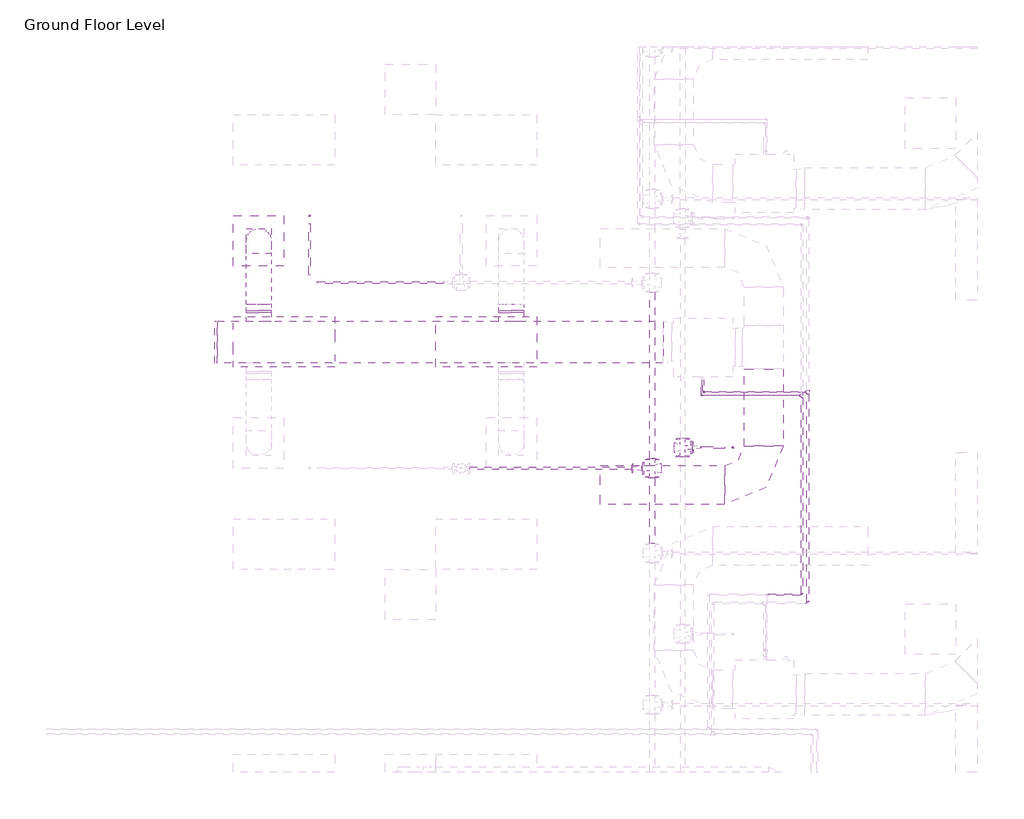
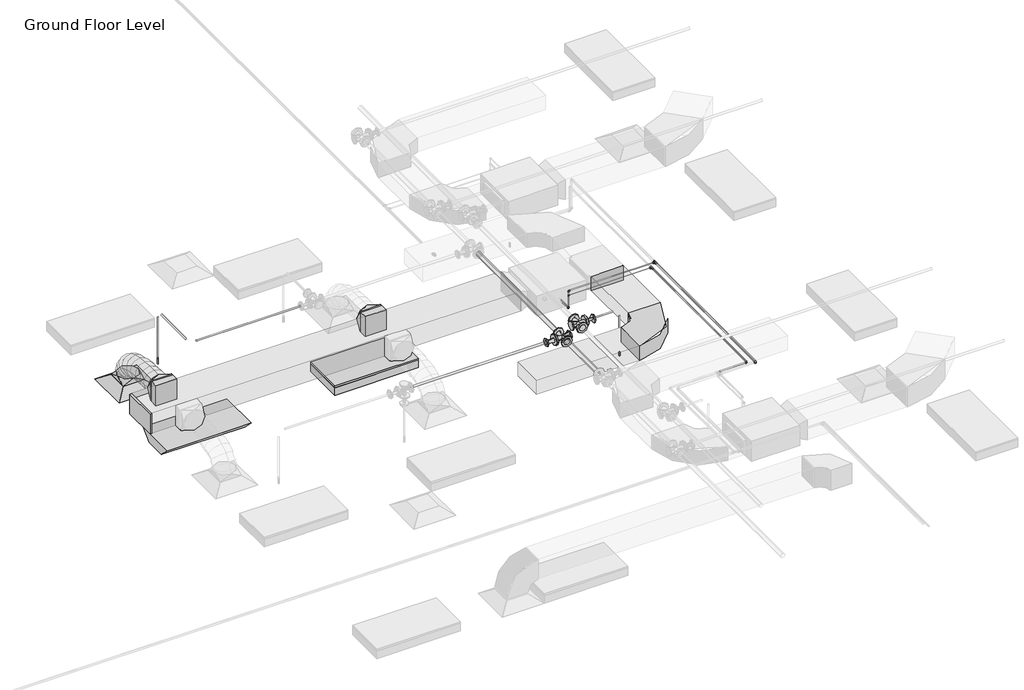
# One storey, part 60 of 72: 17 pipe segments, 14 pipe fittings, 8 duct fittings, 6 duct segments, 2 fire suppression terminals, 2 light fixtures, 1 air terminal.
"""IFC4 building model written with IfcOpenShell, lengths in millimetres."""

from ifc_helpers import new_model, si_unit, point, frame, frame_2d, origin, place, context, project, spatial, polyline, circle_curve, ellipse_curve, trimmed, segment, composite_curve, outline, extrude, transform, mapped, element, save
from ifc_brep_helpers import plane_surface, cylinder_surface, advanced_brep
from components import m_return_diffuser_600_x_600_face_300_x_300_connection_ff221211, m_rectangular_elbow_radius_1_w_0fa52825, m_rectangular_endcap_standard_72d4d00d, m_rectangular_takeoff_standard_2be5eba1, m_rectangular_transition_angle_45_degree_27e6000f, m_rectangular_to_round_transition_angle_45_degree_641efff0, m_sprinkler_dry_pendent_hosted_15_mm_dry_pendent_9bda8e11, m_sprinkler_pendent_15_mm_pendent_06fcbd8e, m_emergency_recessed_lighting_fixture_600x1200_277_5b10b25d, m_troffer_light_parabolic_rectangular1_0600x1200mm_4_lamp_86473d4a, m_elbow_generic_standard_a088f956, m_elbow_generic_standard_2a704253, m_elbow_generic_standard_73005802, m_elbow_generic_standard_bb5ffebe, m_reducer_flanged_cs_class_150_standard_83138b42, m_reducer_flanged_cs_class_150_standard_5e9b2cee, m_tee_generic_standard_cdc1cff5, m_tee_generic_standard_bbfc025c, m_tee_round_base_flanged_cs_class_150_standard_dd767e04, m_tee_round_base_flanged_cs_class_150_standard_ab36f383, m_transition_generic_standard_e9aec4dd, m_transition_generic_standard_c2658a33

model = new_model("IFC4")

# Units and contexts
model_context = context("Model", 3, world=origin())
ifc_project = project(units=[si_unit("LENGTHUNIT", "METRE", prefix="MILLI")], contexts=[model_context])

# Site, building, storey
site = spatial("IfcSite", under=ifc_project)
building = spatial("IfcBuilding", under=site)
storey = spatial("IfcBuildingStorey", under=building, Name="Ground Floor Level", Elevation=900.0)

# Air terminal
placement = place(None, origin())
m_return_diffuser_600_x_600_face_300_x_300_connection_shape = m_return_diffuser_600_x_600_face_300_x_300_connection_ff221211(model_context)
element("IfcAirTerminal", 1, ObjectType="M_Supply Diffuser : 600 x 600 Face 300 x 300 Connection", at=placement, inside=storey, context=model_context, shape_type="MappedRepresentation", body=[
    mapped(m_return_diffuser_600_x_600_face_300_x_300_connection_shape, transform((962.7672395, 5335.2153534, 3650.0), x_axis=(1.0, 0.0, 0.0), y_axis=(0.0, 1.0, 0.0), z_axis=(0.0, 0.0, 1.0))),
])

# Duct fittings
m_rectangular_elbow_radius_1_w_shape = m_rectangular_elbow_radius_1_w_0fa52825(model_context)
element("IfcDuctFitting", 2, ObjectType="M_Rectangular Elbow - Radius : 1 W", at=placement, inside=storey, context=model_context, shape_type="MappedRepresentation", body=[
    mapped(m_rectangular_elbow_radius_1_w_shape, transform((6958.8139492, 2435.5824167, 4075.2875), x_axis=(1.0, 0.0, 0.0), y_axis=(0.0, 1.0, 0.0), z_axis=(0.0, 0.0, 1.0))),
])
m_rectangular_endcap_standard_shape = m_rectangular_endcap_standard_72d4d00d(model_context)
element("IfcDuctFitting", 3, ObjectType="M_Rectangular Endcap : Standard", at=placement, inside=storey, context=model_context, shape_type="MappedRepresentation", body=[
    mapped(m_rectangular_endcap_standard_shape, transform((468.0139492, 4135.0199167, 4099.9875), x_axis=(-0.9999999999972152, 0.0, -2.3600398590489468e-06), y_axis=(0.0, -1.0000000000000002, 0.0), z_axis=(-2.3600398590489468e-06, 0.0, 0.9999999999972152))),
])
m_rectangular_takeoff_standard_shape = m_rectangular_takeoff_standard_2be5eba1(model_context)
element("IfcDuctFitting", 4, ObjectType="M_Rectangular Takeoff : Standard", at=placement, inside=storey, context=model_context, shape_type="MappedRepresentation", body=[
    mapped(m_rectangular_takeoff_standard_shape, transform((3962.7672395, 4385.0199167, 4099.9957478), x_axis=(0.0, 1.0, 0.0), y_axis=(1.0, 0.0, 0.0), z_axis=(0.0, 0.0, -1.0))),
])
element("IfcDuctFitting", 5, ObjectType="M_Rectangular Takeoff : Standard", at=placement, inside=storey, context=model_context, shape_type="MappedRepresentation", body=[
    mapped(m_rectangular_takeoff_standard_shape, transform((962.7672395, 4385.0199167, 4099.9886676), x_axis=(0.0, 1.0, 0.0), y_axis=(1.0, 0.0, 0.0), z_axis=(0.0, 0.0, -1.0))),
])
m_rectangular_transition_angle_45_degree_shape = m_rectangular_transition_angle_45_degree_27e6000f(model_context)
element("IfcDuctFitting", 6, ObjectType="M_Rectangular Transition - Angle : 45 Degree", at=placement, inside=storey, context=model_context, shape_type="MappedRepresentation", body=[
    mapped(m_rectangular_transition_angle_45_degree_shape, transform((6958.8139492, 3815.5824167, 4075.2875), x_axis=(0.0, -1.0, 0.0), y_axis=(1.0, 0.0, 0.0), z_axis=(0.0, 0.0, 1.0))),
])
m_rectangular_to_round_transition_angle_45_degree_shape = m_rectangular_to_round_transition_angle_45_degree_641efff0(model_context)
element("IfcDuctFitting", 7, ObjectType="M_Rectangular to Round Transition - Angle : 45 Degree", at=placement, inside=storey, context=model_context, shape_type="MappedRepresentation", body=[
    mapped(m_rectangular_to_round_transition_angle_45_degree_shape, transform((962.7672395, 5335.2153534, 3751.6), x_axis=(0.0, 0.0, 1.0), y_axis=(-1.0, 0.0, 0.0), z_axis=(0.0, -1.0, 0.0))),
])
element("IfcDuctFitting", 8, ObjectType="M_Rectangular to Round Transition - Angle : 45 Degree", at=placement, inside=storey, context=model_context, shape_type="MappedRepresentation", body=[
    mapped(m_rectangular_to_round_transition_angle_45_degree_shape, transform((962.7672395, 4507.8680897, 4099.9886676), x_axis=(0.0, 1.0, 0.0), y_axis=(-1.0, 0.0, 0.0), z_axis=(0.0, 0.0, 1.0))),
])
element("IfcDuctFitting", 9, ObjectType="M_Rectangular to Round Transition - Angle : 45 Degree", at=placement, inside=storey, context=model_context, shape_type="MappedRepresentation", body=[
    mapped(m_rectangular_to_round_transition_angle_45_degree_shape, transform((3962.7672395, 4507.8751699, 4099.9957478), x_axis=(0.0, 1.0, 0.0), y_axis=(-1.0, 0.0, 0.0), z_axis=(0.0, 0.0, 1.0))),
])

# Duct segments
element("IfcDuctSegment", 10, ObjectType="Flex - Round", at=placement, inside=storey, context=model_context, shape_type="AdvancedBrep", body=[
    advanced_brep(
    [(1112.7672395, 5335.2153534, 3826.6), (962.7672395, 5185.2153534, 3826.6), (812.7672395, 5335.2153534, 3826.6), (962.7672395, 5485.2153534, 3826.6), (1112.7672395, 5335.2153534, 3857.9381871), (962.7672395, 5185.2153534, 3832.2943835), (812.7672395, 5335.2153534, 3857.9381871), (962.7672395, 5485.2153534, 3883.5819907), (1112.7672395, 5318.1991066, 3906.2507795), (962.7672395, 5184.4618414, 3834.4337577), (812.7672395, 5318.1991066, 3906.2507795), (962.7672395, 5451.9363718, 3978.0678013), (1112.7672395, 5271.0143708, 3968.7107945), (962.7672395, 5166.8104112, 3857.7995469), (812.7672395, 5271.0143708, 3968.7107945), (962.7672395, 5375.2183303, 4079.622042), (1112.7672395, 5199.4571526, 4016.0681304), (962.7672395, 5130.5261535, 3881.8128585), (812.7672395, 5199.4571526, 4016.0681304), (962.7672395, 5268.3881516, 4150.3234022), (1112.7672395, 5109.3234587, 4050.4108726), (962.7672395, 5065.7660366, 3906.4877598), (812.7672395, 5109.3234587, 4050.4108726), (962.7672395, 5152.8808808, 4194.3339853), (1112.7672395, 5006.4092959, 4073.8271066), (962.7672395, 4979.8515391, 3926.0360311), (812.7672395, 5006.4092959, 4073.8271066), (962.7672395, 5032.9670528, 4221.618182), (1112.7672395, 4896.5106709, 4088.4049176), (962.7672395, 4881.3625214, 3939.1003829), (812.7672395, 4896.5106709, 4088.4049176), (962.7672395, 4911.6588205, 4237.7094524), (1112.7672395, 4785.4235904, 4096.2323912), (962.7672395, 4777.9204039, 3946.3891733), (812.7672395, 4785.4235904, 4096.2323912), (962.7672395, 4792.9267769, 4246.0756092), (1112.7672395, 4678.9440611, 4099.3976128), (962.7672395, 4676.2538265, 3949.4113245), (812.7672395, 4678.9440611, 4099.3976128), (962.7672395, 4681.6342958, 4249.383901), (1112.7672395, 4582.8680897, 4099.9886676), (962.7672395, 4583.7908652, 4249.9858292), (812.7672395, 4582.8680897, 4099.9886676), (962.7672395, 4581.9453142, 3949.991506)],
    [
        (0, 1, circle_curve(frame((962.7672395, 5335.2153534, 3826.6), z_axis=(0.0, 0.0, -1.0), x_axis=(1.0, 0.0, 0.0)), 150.0)),
        (1, 2, circle_curve(frame((962.7672395, 5335.2153534, 3826.6), z_axis=(0.0, 0.0, -1.0), x_axis=(1.0, 0.0, 0.0)), 150.0)),
        (2, 3, circle_curve(frame((962.7672395, 5335.2153534, 3826.6), z_axis=(0.0, 0.0, -1.0), x_axis=(1.0, 0.0, 0.0)), 150.0)),
        (3, 0, circle_curve(frame((962.7672395, 5335.2153534, 3826.6), z_axis=(0.0, 0.0, -1.0), x_axis=(1.0, 0.0, 0.0)), 150.0)),
        (0, 4),
        (4, 5, ellipse_curve(frame((962.7672395, 5335.2153534, 3857.9381871), z_axis=(0.0, 0.16851385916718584, -0.9856992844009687), x_axis=(0.0, -0.9856992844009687, -0.16851385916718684)), 152.176229, 150.0)),
        (5, 1),
        (5, 6, ellipse_curve(frame((962.7672395, 5335.2153534, 3857.9381871), z_axis=(0.0, 0.16851385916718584, -0.9856992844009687), x_axis=(0.0, -0.9856992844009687, -0.16851385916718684)), 152.176229, 150.0)),
        (6, 2),
        (6, 7, ellipse_curve(frame((962.7672395, 5335.2153534, 3857.9381871), z_axis=(0.0, 0.16851385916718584, -0.9856992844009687), x_axis=(0.0, -0.9856992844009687, -0.16851385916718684)), 152.176229, 150.0)),
        (7, 3),
        (7, 4, ellipse_curve(frame((962.7672395, 5335.2153534, 3857.9381871), z_axis=(0.0, 0.16851385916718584, -0.9856992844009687), x_axis=(0.0, -0.9856992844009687, -0.16851385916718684)), 152.176229, 150.0)),
        (4, 8),
        (8, 9, ellipse_curve(frame((962.7672395, 5318.1991066, 3906.2507795), z_axis=(0.0, 0.4731018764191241, -0.8810077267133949), x_axis=(0.0, -0.8810077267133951, -0.4731018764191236)), 151.8003318, 150.0)),
        (9, 5),
        (9, 10, ellipse_curve(frame((962.7672395, 5318.1991066, 3906.2507795), z_axis=(0.0, 0.4731018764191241, -0.8810077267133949), x_axis=(0.0, -0.8810077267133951, -0.4731018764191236)), 151.8003318, 150.0)),
        (10, 6),
        (10, 11, ellipse_curve(frame((962.7672395, 5318.1991066, 3906.2507795), z_axis=(0.0, 0.4731018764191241, -0.8810077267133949), x_axis=(0.0, -0.8810077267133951, -0.4731018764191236)), 151.8003318, 150.0)),
        (11, 7),
        (11, 8, ellipse_curve(frame((962.7672395, 5318.1991066, 3906.2507795), z_axis=(0.0, 0.4731018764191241, -0.8810077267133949), x_axis=(0.0, -0.8810077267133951, -0.4731018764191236)), 151.8003318, 150.0)),
        (8, 12),
        (12, 13, ellipse_curve(frame((962.7672395, 5271.0143708, 3968.7107945), z_axis=(0.0, 0.728800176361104, -0.6847264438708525), x_axis=(0.0, -0.6847264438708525, -0.7288001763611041)), 152.1833434, 150.0)),
        (13, 9),
        (13, 14, ellipse_curve(frame((962.7672395, 5271.0143708, 3968.7107945), z_axis=(0.0, 0.728800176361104, -0.6847264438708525), x_axis=(0.0, -0.6847264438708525, -0.7288001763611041)), 152.1833434, 150.0)),
        (14, 10),
        (14, 15, ellipse_curve(frame((962.7672395, 5271.0143708, 3968.7107945), z_axis=(0.0, 0.728800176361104, -0.6847264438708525), x_axis=(0.0, -0.6847264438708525, -0.7288001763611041)), 152.1833434, 150.0)),
        (15, 11),
        (15, 12, ellipse_curve(frame((962.7672395, 5271.0143708, 3968.7107945), z_axis=(0.0, 0.728800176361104, -0.6847264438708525), x_axis=(0.0, -0.6847264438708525, -0.7288001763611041)), 152.1833434, 150.0)),
        (12, 16),
        (16, 17, ellipse_curve(frame((962.7672395, 5199.4571526, 4016.0681304), z_axis=(0.0, 0.8895963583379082, -0.456747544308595), x_axis=(0.0, -0.4567475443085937, -0.8895963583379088)), 150.9170655, 150.0)),
        (17, 13),
        (17, 18, ellipse_curve(frame((962.7672395, 5199.4571526, 4016.0681304), z_axis=(0.0, 0.8895963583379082, -0.456747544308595), x_axis=(0.0, -0.4567475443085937, -0.8895963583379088)), 150.9170655, 150.0)),
        (18, 14),
        (18, 19, ellipse_curve(frame((962.7672395, 5199.4571526, 4016.0681304), z_axis=(0.0, 0.8895963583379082, -0.456747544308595), x_axis=(0.0, -0.4567475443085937, -0.8895963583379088)), 150.9170655, 150.0)),
        (19, 15),
        (19, 16, ellipse_curve(frame((962.7672395, 5199.4571526, 4016.0681304), z_axis=(0.0, 0.8895963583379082, -0.456747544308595), x_axis=(0.0, -0.4567475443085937, -0.8895963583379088)), 150.9170655, 150.0)),
        (16, 20),
        (20, 21, ellipse_curve(frame((962.7672395, 5109.3234587, 4050.4108726), z_axis=(0.0, 0.9571270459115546, -0.2896684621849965), x_axis=(0.0, -0.28966846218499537, -0.957127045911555)), 150.3699152, 150.0)),
        (21, 17),
        (21, 22, ellipse_curve(frame((962.7672395, 5109.3234587, 4050.4108726), z_axis=(0.0, 0.9571270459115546, -0.2896684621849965), x_axis=(0.0, -0.28966846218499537, -0.957127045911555)), 150.3699152, 150.0)),
        (22, 18),
        (22, 23, ellipse_curve(frame((962.7672395, 5109.3234587, 4050.4108726), z_axis=(0.0, 0.9571270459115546, -0.2896684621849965), x_axis=(0.0, -0.28966846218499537, -0.957127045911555)), 150.3699152, 150.0)),
        (23, 19),
        (23, 20, ellipse_curve(frame((962.7672395, 5109.3234587, 4050.4108726), z_axis=(0.0, 0.9571270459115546, -0.2896684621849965), x_axis=(0.0, -0.28966846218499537, -0.957127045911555)), 150.3699152, 150.0)),
        (20, 24),
        (24, 25, ellipse_curve(frame((962.7672395, 5006.4092959, 4073.8271066), z_axis=(0.0, 0.984235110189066, -0.17686505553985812), x_axis=(0.0, -0.17686505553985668, -0.9842351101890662)), 150.1583045, 150.0)),
        (25, 21),
        (25, 26, ellipse_curve(frame((962.7672395, 5006.4092959, 4073.8271066), z_axis=(0.0, 0.984235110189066, -0.17686505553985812), x_axis=(0.0, -0.17686505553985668, -0.9842351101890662)), 150.1583045, 150.0)),
        (26, 22),
        (26, 27, ellipse_curve(frame((962.7672395, 5006.4092959, 4073.8271066), z_axis=(0.0, 0.984235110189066, -0.17686505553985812), x_axis=(0.0, -0.17686505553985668, -0.9842351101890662)), 150.1583045, 150.0)),
        (27, 23),
        (27, 24, ellipse_curve(frame((962.7672395, 5006.4092959, 4073.8271066), z_axis=(0.0, 0.984235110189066, -0.17686505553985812), x_axis=(0.0, -0.17686505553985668, -0.9842351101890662)), 150.1583045, 150.0)),
        (24, 28),
        (28, 29, ellipse_curve(frame((962.7672395, 4896.5106709, 4088.4049176), z_axis=(0.0, 0.9948925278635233, -0.1009398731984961), x_axis=(0.0, -0.10093987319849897, -0.994892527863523)), 150.0710183, 150.0)),
        (29, 25),
        (29, 30, ellipse_curve(frame((962.7672395, 4896.5106709, 4088.4049176), z_axis=(0.0, 0.9948925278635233, -0.1009398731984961), x_axis=(0.0, -0.10093987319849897, -0.994892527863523)), 150.0710183, 150.0)),
        (30, 26),
        (30, 31, ellipse_curve(frame((962.7672395, 4896.5106709, 4088.4049176), z_axis=(0.0, 0.9948925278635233, -0.1009398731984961), x_axis=(0.0, -0.10093987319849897, -0.994892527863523)), 150.0710183, 150.0)),
        (31, 27),
        (31, 28, ellipse_curve(frame((962.7672395, 4896.5106709, 4088.4049176), z_axis=(0.0, 0.9948925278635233, -0.1009398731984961), x_axis=(0.0, -0.10093987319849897, -0.994892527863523)), 150.0710183, 150.0)),
        (28, 32),
        (32, 33, ellipse_curve(frame((962.7672395, 4785.4235904, 4096.2323912), z_axis=(0.0, 0.9987486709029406, -0.05001092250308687), x_axis=(0.0, -0.05001092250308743, -0.9987486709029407)), 150.0309561, 150.0)),
        (33, 29),
        (33, 34, ellipse_curve(frame((962.7672395, 4785.4235904, 4096.2323912), z_axis=(0.0, 0.9987486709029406, -0.05001092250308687), x_axis=(0.0, -0.05001092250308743, -0.9987486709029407)), 150.0309561, 150.0)),
        (34, 30),
        (34, 35, ellipse_curve(frame((962.7672395, 4785.4235904, 4096.2323912), z_axis=(0.0, 0.9987486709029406, -0.05001092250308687), x_axis=(0.0, -0.05001092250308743, -0.9987486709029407)), 150.0309561, 150.0)),
        (35, 31),
        (35, 32, ellipse_curve(frame((962.7672395, 4785.4235904, 4096.2323912), z_axis=(0.0, 0.9987486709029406, -0.05001092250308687), x_axis=(0.0, -0.05001092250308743, -0.9987486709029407)), 150.0309561, 150.0)),
        (32, 36),
        (36, 37, ellipse_curve(frame((962.7672395, 4678.9440611, 4099.3976128), z_axis=(0.0, 0.9998391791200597, -0.017933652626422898), x_axis=(0.0, -0.017933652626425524, -0.9998391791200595)), 150.0104131, 150.0)),
        (37, 33),
        (37, 38, ellipse_curve(frame((962.7672395, 4678.9440611, 4099.3976128), z_axis=(0.0, 0.9998391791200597, -0.017933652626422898), x_axis=(0.0, -0.017933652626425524, -0.9998391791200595)), 150.0104131, 150.0)),
        (38, 34),
        (38, 39, ellipse_curve(frame((962.7672395, 4678.9440611, 4099.3976128), z_axis=(0.0, 0.9998391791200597, -0.017933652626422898), x_axis=(0.0, -0.017933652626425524, -0.9998391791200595)), 150.0104131, 150.0)),
        (39, 35),
        (39, 36, ellipse_curve(frame((962.7672395, 4678.9440611, 4099.3976128), z_axis=(0.0, 0.9998391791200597, -0.017933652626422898), x_axis=(0.0, -0.017933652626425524, -0.9998391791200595)), 150.0104131, 150.0)),
        (40, 41, circle_curve(frame((962.7672395, 4582.8680897, 4099.9886676), z_axis=(0.0, -0.9999810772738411, 0.006151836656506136), x_axis=(1.0, 0.0, 0.0)), 150.0)),
        (41, 42, circle_curve(frame((962.7672395, 4582.8680897, 4099.9886676), z_axis=(0.0, -0.9999810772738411, 0.006151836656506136), x_axis=(1.0, 0.0, 0.0)), 150.0)),
        (42, 43, circle_curve(frame((962.7672395, 4582.8680897, 4099.9886676), z_axis=(0.0, -0.9999810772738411, 0.006151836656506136), x_axis=(1.0, 0.0, 0.0)), 150.0)),
        (43, 40, circle_curve(frame((962.7672395, 4582.8680897, 4099.9886676), z_axis=(0.0, -0.9999810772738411, 0.006151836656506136), x_axis=(1.0, 0.0, 0.0)), 150.0)),
        (36, 40),
        (43, 37),
        (42, 38),
        (41, 39),
    ],
    [
        plane_surface(frame((962.7672395, 5185.2153534, 3826.6), z_axis=(0.0, 0.0, -1.0), x_axis=(1.0, 0.0, 0.0))),
        cylinder_surface(frame((962.7672395, 5335.2153534, 3826.6), z_axis=(0.0, 0.0, -1.0), x_axis=(1.0, 0.0, 0.0)), 150.0),
        cylinder_surface(frame((962.7672395, 5335.2153534, 3857.9381871), z_axis=(0.0, 0.33220798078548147, -0.9432061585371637), x_axis=(1.0, 0.0, 0.0)), 150.0),
        cylinder_surface(frame((962.7672395, 5318.1991066, 3906.2507795), z_axis=(0.0, 0.6027739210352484, -0.7979120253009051), x_axis=(1.0, 0.0, 0.0)), 150.0),
        cylinder_surface(frame((962.7672395, 5271.0143708, 3968.7107945), z_axis=(0.0, 0.8339145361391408, -0.5518936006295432), x_axis=(1.0, 0.0, 0.0)), 150.0),
        cylinder_surface(frame((962.7672395, 5199.4571526, 4016.0681304), z_axis=(0.0, 0.9344667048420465, -0.35605052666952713), x_axis=(1.0, 0.0, 0.0)), 150.0),
        cylinder_surface(frame((962.7672395, 5109.3234587, 4050.4108726), z_axis=(0.0, 0.9750782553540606, -0.2218612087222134), x_axis=(1.0, 0.0, 0.0)), 150.0),
        cylinder_surface(frame((962.7672395, 5006.4092959, 4073.8271066), z_axis=(0.0, 0.9913167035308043, -0.13149598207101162), x_axis=(1.0, 0.0, 0.0)), 150.0),
        cylinder_surface(frame((962.7672395, 4896.5106709, 4088.4049176), z_axis=(0.0, 0.9975267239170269, -0.0702882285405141), x_axis=(1.0, 0.0, 0.0)), 150.0),
        cylinder_surface(frame((962.7672395, 4785.4235904, 4096.2323912), z_axis=(0.0, 0.9995584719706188, -0.029712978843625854), x_axis=(1.0, 0.0, 0.0)), 150.0),
        plane_surface(frame((962.7672395, 4581.9453142, 3949.991506), z_axis=(0.0, -0.9999810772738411, 0.006151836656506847), x_axis=(1.0, 0.0, 0.0))),
        cylinder_surface(frame((962.7672395, 4678.9440611, 4099.3976128), z_axis=(0.0, 0.9999810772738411, -0.006151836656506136), x_axis=(1.0, 0.0, 0.0)), 150.0),
    ],
    [
        (0, [[1, 2, 3, 4]]),
        (1, [[-1, 5, 6, 7]]),
        (1, [[-2, -7, 8, 9]]),
        (1, [[-3, -9, 10, 11]]),
        (1, [[-4, -11, 12, -5]]),
        (2, [[-6, 13, 14, 15]]),
        (2, [[-8, -15, 16, 17]]),
        (2, [[-10, -17, 18, 19]]),
        (2, [[-12, -19, 20, -13]]),
        (3, [[-14, 21, 22, 23]]),
        (3, [[-16, -23, 24, 25]]),
        (3, [[-18, -25, 26, 27]]),
        (3, [[-20, -27, 28, -21]]),
        (4, [[-22, 29, 30, 31]]),
        (4, [[-24, -31, 32, 33]]),
        (4, [[-26, -33, 34, 35]]),
        (4, [[-28, -35, 36, -29]]),
        (5, [[-30, 37, 38, 39]]),
        (5, [[-32, -39, 40, 41]]),
        (5, [[-34, -41, 42, 43]]),
        (5, [[-36, -43, 44, -37]]),
        (6, [[-38, 45, 46, 47]]),
        (6, [[-40, -47, 48, 49]]),
        (6, [[-42, -49, 50, 51]]),
        (6, [[-44, -51, 52, -45]]),
        (7, [[-46, 53, 54, 55]]),
        (7, [[-48, -55, 56, 57]]),
        (7, [[-50, -57, 58, 59]]),
        (7, [[-52, -59, 60, -53]]),
        (8, [[-54, 61, 62, 63]]),
        (8, [[-56, -63, 64, 65]]),
        (8, [[-58, -65, 66, 67]]),
        (8, [[-60, -67, 68, -61]]),
        (9, [[-62, 69, 70, 71]]),
        (9, [[-64, -71, 72, 73]]),
        (9, [[-66, -73, 74, 75]]),
        (9, [[-68, -75, 76, -69]]),
        (10, [[77, 78, 79, 80]]),
        (11, [[-70, 81, -80, 82]]),
        (11, [[-72, -82, -79, 83]]),
        (11, [[-74, -83, -78, 84]]),
        (11, [[-76, -84, -77, -81]]),
    ],
),
])
element("IfcDuctSegment", 11, ObjectType="Radius Elbows / Taps", at=placement, inside=storey, context=model_context, shape_type="SweptSolid", body=[
    extrude(outline(polyline([(0.0, -500.0), (0.0, 0.0), (5296.5207711, 0.0), (5296.5207711, -500.0), (0.0, -500.0)])), frame((5764.5350744, 3885.0199167, 3950.0), z_axis=(-2.360039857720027e-06, 0.0, 0.9999999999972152), x_axis=(-0.9999999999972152, 0.0, -2.360039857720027e-06)), (0.0, 0.0, 1.0), 300.0),
])
element("IfcDuctSegment", 12, ObjectType="Radius Elbows / Taps", at=placement, inside=storey, context=model_context, shape_type="SweptSolid", body=[
    extrude(outline(polyline([(6727.8139492, 3815.2202847), (7189.8139492, 3815.2202847), (7189.8139492, 2897.5824167), (6727.8139492, 2897.5824167), (6727.8139492, 3815.2202847)])), frame((0.0, 0.0, 3968.2875), z_axis=(0.0, 0.0, 1.0), x_axis=(1.0, 0.0, 0.0)), (0.0, 0.0, 1.0), 214.0),
])
element("IfcDuctSegment", 13, ObjectType="Radius Elbows / Taps", at=placement, inside=storey, context=model_context, shape_type="SweptSolid", body=[
    extrude(outline(polyline([(6496.8139492, 2666.5824167), (6496.8139492, 2204.5824167), (5018.8139492, 2204.5824167), (5018.8139492, 2666.5824167), (6496.8139492, 2666.5824167)])), frame((0.0, 0.0, 3968.2875), z_axis=(0.0, 0.0, 1.0), x_axis=(1.0, 0.0, 0.0)), (0.0, 0.0, 1.0), 214.0),
])
element("IfcDuctSegment", 14, ObjectType="Radius Elbows / Taps", at=placement, inside=storey, context=model_context, shape_type="SweptSolid", body=[
    extrude(outline(polyline([(4112.7672395, 4486.6199167), (3812.7672395, 4486.6199167), (3812.7672395, 4507.8751699), (4112.7672395, 4507.8751699), (4112.7672395, 4486.6199167)])), frame((0.0, 0.0, 3949.9957478), z_axis=(0.0, 0.0, 1.0), x_axis=(1.0, 0.0, 0.0)), (0.0, 0.0, 1.0), 300.0),
])
element("IfcDuctSegment", 15, ObjectType="Radius Elbows / Taps", at=placement, inside=storey, context=model_context, shape_type="SweptSolid", body=[
    extrude(outline(polyline([(1112.7672395, 4486.6199167), (812.7672395, 4486.6199167), (812.7672395, 4507.8680897), (1112.7672395, 4507.8680897), (1112.7672395, 4486.6199167)])), frame((0.0, 0.0, 3949.9886676), z_axis=(0.0, 0.0, 1.0), x_axis=(1.0, 0.0, 0.0)), (0.0, 0.0, 1.0), 300.0),
])

# Fire suppression terminals
m_sprinkler_dry_pendent_hosted_15_mm_dry_pendent_shape = m_sprinkler_dry_pendent_hosted_15_mm_dry_pendent_9bda8e11(model_context)
element("IfcFireSuppressionTerminal", 16, ObjectType="M_Sprinkler - Dry - Pendent - Hosted : 15 mm Dry Pendent", at=placement, inside=storey, context=model_context, shape_type="MappedRepresentation", body=[
    mapped(m_sprinkler_dry_pendent_hosted_15_mm_dry_pendent_shape, transform((1565.5763283, 5635.2153534, 3650.0), x_axis=(1.0, 0.0, 0.0), y_axis=(0.0, -1.0, 0.0), z_axis=(0.0, 0.0, -1.0))),
])
m_sprinkler_pendent_15_mm_pendent_shape = m_sprinkler_pendent_15_mm_pendent_06fcbd8e(model_context)
element("IfcFireSuppressionTerminal", 17, ObjectType="M_Sprinkler - Pendent : 15 mm Pendent", at=placement, inside=storey, context=model_context, shape_type="MappedRepresentation", body=[
    mapped(m_sprinkler_pendent_15_mm_pendent_shape, transform((6592.5481019, 2881.5134565, 3650.0), x_axis=(1.0, 0.0, 0.0), y_axis=(0.0, 1.0, 0.0), z_axis=(0.0, 0.0, 1.0))),
])

# Light fixtures
m_emergency_recessed_lighting_fixture_600x1200_277_shape = m_emergency_recessed_lighting_fixture_600x1200_277_5b10b25d(model_context)
element("IfcLightFixture", 18, ObjectType="M_Emergency Recessed Lighting Fixture : 600x1200 - 277", at=placement, inside=storey, context=model_context, shape_type="MappedRepresentation", body=[
    mapped(m_emergency_recessed_lighting_fixture_600x1200_277_shape, transform((662.7672395, 4435.2153534, 3650.0), x_axis=(1.0, 0.0, 0.0), y_axis=(0.0, 1.0, 0.0), z_axis=(0.0, 0.0, 1.0))),
])
m_troffer_light_parabolic_rectangular1_0600x1200mm_4_lamp_shape = m_troffer_light_parabolic_rectangular1_0600x1200mm_4_lamp_86473d4a(model_context)
element("IfcLightFixture", 19, ObjectType="M_Troffer Light - Parabolic Rectangular1 : 0600x1200mm(4 Lamp) - 277V 2", at=placement, inside=storey, context=model_context, shape_type="MappedRepresentation", body=[
    mapped(m_troffer_light_parabolic_rectangular1_0600x1200mm_4_lamp_shape, transform((3681.4707411, 4194.6812855, 3650.0), x_axis=(1.0, 0.0, 0.0), y_axis=(0.0, 1.0, 0.0), z_axis=(0.0, 0.0, 1.0))),
])

# Pipe fittings
m_elbow_generic_standard_shape = m_elbow_generic_standard_a088f956(model_context)
element("IfcPipeFitting", 20, ObjectType="M_Elbow - Generic : Standard", at=placement, inside=storey, context=model_context, shape_type="MappedRepresentation", body=[
    mapped(m_elbow_generic_standard_shape, transform((6243.4139492, 3539.4875998, 4034.0875), x_axis=(0.0, -1.0, 0.0), y_axis=(0.0, 0.0, 1.0), z_axis=(-1.0, 0.0, 0.0))),
])
element("IfcPipeFitting", 21, ObjectType="M_Elbow - Generic : Standard", at=placement, inside=storey, context=model_context, shape_type="MappedRepresentation", body=[
    mapped(m_elbow_generic_standard_shape, transform((6243.4139492, 3539.4875998, 4300.0), x_axis=(0.0, 0.0, 1.0), y_axis=(1.0, 0.0, 0.0), z_axis=(0.0, 1.0, 0.0))),
])
m_elbow_generic_standard_2_shape = m_elbow_generic_standard_2a704253(model_context)
element("IfcPipeFitting", 22, ObjectType="M_Elbow - Generic : Standard", at=placement, inside=storey, context=model_context, shape_type="MappedRepresentation", body=[
    mapped(m_elbow_generic_standard_2_shape, transform((6218.4139492, 3499.6030827, 4084.8875), x_axis=(0.0, -1.0, 0.0), y_axis=(0.0, 0.0, 1.0), z_axis=(-1.0, 0.0, 0.0))),
])
element("IfcPipeFitting", 23, ObjectType="M_Elbow - Generic : Standard", at=placement, inside=storey, context=model_context, shape_type="MappedRepresentation", body=[
    mapped(m_elbow_generic_standard_2_shape, transform((6218.4139492, 3499.6030827, 4265.0), x_axis=(0.0, 0.0, 1.0), y_axis=(1.0, 0.0, 0.0), z_axis=(0.0, 1.0, 0.0))),
])
m_elbow_generic_standard_3_shape = m_elbow_generic_standard_73005802(model_context)
element("IfcPipeFitting", 24, ObjectType="M_Elbow - Generic : Standard", at=placement, inside=storey, context=model_context, shape_type="MappedRepresentation", body=[
    mapped(m_elbow_generic_standard_3_shape, transform((7485.0672395, 1036.0098545, 4300.0), x_axis=(1.0, 0.0, 0.0), y_axis=(0.0, 1.0, 0.0), z_axis=(0.0, 0.0, 1.0))),
])
m_elbow_generic_standard_4_shape = m_elbow_generic_standard_bb5ffebe(model_context)
element("IfcPipeFitting", 25, ObjectType="M_Elbow - Generic : Standard", at=placement, inside=storey, context=model_context, shape_type="MappedRepresentation", body=[
    mapped(m_elbow_generic_standard_4_shape, transform((7412.2057053, 1134.0185138, 4265.0), x_axis=(1.0, 0.0, 0.0), y_axis=(0.0, 1.0, 0.0), z_axis=(0.0, 0.0, 1.0))),
])
m_reducer_flanged_cs_class_150_standard_shape = m_reducer_flanged_cs_class_150_standard_83138b42(model_context)
element("IfcPipeFitting", 26, ObjectType="M_Reducer - Flanged - CS - Class 150 : Standard", at=placement, inside=storey, context=model_context, shape_type="MappedRepresentation", body=[
    mapped(m_reducer_flanged_cs_class_150_standard_shape, transform((6109.3164057, 2881.5134565, 4291.2754753), x_axis=(1.0, 0.0, 0.0), y_axis=(0.0, 0.0, -1.0), z_axis=(0.0, 1.0, 0.0))),
])
m_reducer_flanged_cs_class_150_standard_2_shape = m_reducer_flanged_cs_class_150_standard_5e9b2cee(model_context)
element("IfcPipeFitting", 27, ObjectType="M_Reducer - Flanged - CS - Class 150 : Standard", at=placement, inside=storey, context=model_context, shape_type="MappedRepresentation", body=[
    mapped(m_reducer_flanged_cs_class_150_standard_2_shape, transform((5521.869498, 2635.2153534, 4360.0), x_axis=(-1.0, 0.0, 0.0), y_axis=(0.0, 0.0, -1.0), z_axis=(0.0, -1.0, 0.0))),
])
m_tee_generic_standard_shape = m_tee_generic_standard_cdc1cff5(model_context)
element("IfcPipeFitting", 28, ObjectType="M_Tee - Generic : Standard", at=placement, inside=storey, context=model_context, shape_type="MappedRepresentation", body=[
    mapped(m_tee_generic_standard_shape, transform((7412.2057053, 3499.6030827, 4265.0), x_axis=(0.0, 1.0, 0.0), y_axis=(1.0, 0.0, 0.0), z_axis=(0.0, 0.0, -1.0))),
])
m_tee_generic_standard_2_shape = m_tee_generic_standard_bbfc025c(model_context)
element("IfcPipeFitting", 29, ObjectType="M_Tee - Generic : Standard", at=placement, inside=storey, context=model_context, shape_type="MappedRepresentation", body=[
    mapped(m_tee_generic_standard_2_shape, transform((7485.0672395, 3539.4875998, 4300.0), x_axis=(0.0, 1.0, 0.0), y_axis=(1.0, 0.0, 0.0), z_axis=(0.0, 0.0, -1.0))),
])
m_tee_round_base_flanged_cs_class_150_standard_shape = m_tee_round_base_flanged_cs_class_150_standard_dd767e04(model_context)
element("IfcPipeFitting", 30, ObjectType="M_Tee Round Base - Flanged - CS - Class 150 : Standard", at=placement, inside=storey, context=model_context, shape_type="MappedRepresentation", body=[
    mapped(m_tee_round_base_flanged_cs_class_150_standard_shape, transform((5635.869498, 2635.2153534, 4360.0), x_axis=(0.0, 1.0, 0.0), y_axis=(1.0, 0.0, 0.0), z_axis=(0.0, 0.0, -1.0))),
])
m_tee_round_base_flanged_cs_class_150_standard_2_shape = m_tee_round_base_flanged_cs_class_150_standard_ab36f383(model_context)
element("IfcPipeFitting", 31, ObjectType="M_Tee Round Base - Flanged - CS - Class 150 : Standard", at=placement, inside=storey, context=model_context, shape_type="MappedRepresentation", body=[
    mapped(m_tee_round_base_flanged_cs_class_150_standard_2_shape, transform((5997.057812, 2881.5134565, 4291.0943441), x_axis=(0.0, 1.0, 0.0), y_axis=(-1.0, 0.0, 0.0), z_axis=(0.0, 0.0, 1.0))),
])
m_transition_generic_standard_shape = m_transition_generic_standard_e9aec4dd(model_context)
element("IfcPipeFitting", 32, ObjectType="M_Transition - Generic : Standard", at=placement, inside=storey, context=model_context, shape_type="MappedRepresentation", body=[
    mapped(m_transition_generic_standard_shape, transform((7459.6672395, 3539.4875998, 4300.0), x_axis=(-1.0, 0.0, 0.0), y_axis=(0.0, -1.0, 0.0), z_axis=(0.0, 0.0, 1.0))),
])
m_transition_generic_standard_2_shape = m_transition_generic_standard_c2658a33(model_context)
element("IfcPipeFitting", 33, ObjectType="M_Transition - Generic : Standard", at=placement, inside=storey, context=model_context, shape_type="MappedRepresentation", body=[
    mapped(m_transition_generic_standard_2_shape, transform((7389.9807053, 3499.6030827, 4265.0), x_axis=(-1.0, 0.0, 0.0), y_axis=(0.0, -1.0, 0.0), z_axis=(0.0, 0.0, 1.0))),
])

# Pipe segments
element("IfcPipeSegment", 34, ObjectType="Copper", at=placement, inside=storey, context=model_context, shape_type="SweptSolid", body=[
    extrude(outline(composite_curve([segment(trimmed(circle_curve(frame_2d((3499.6030827, 4265.0)), 3.35), [point((3496.2530827, 4265.0))], [point((3499.6030827, 4268.35))], False, "CARTESIAN"), True, "CONTINUOUS"), segment(trimmed(circle_curve(frame_2d((3499.6030827, 4265.0)), 3.35), [point((3499.6030827, 4268.35))], [point((3502.9530827, 4265.0))], False, "CARTESIAN"), True, "CONTINUOUS"), segment(trimmed(circle_curve(frame_2d((3499.6030827, 4265.0)), 3.35), [point((3502.9530827, 4265.0))], [point((3499.6030827, 4261.65))], False, "CARTESIAN"), True, "CONTINUOUS"), segment(trimmed(circle_curve(frame_2d((3499.6030827, 4265.0)), 3.35), [point((3499.6030827, 4261.65))], [point((3496.2530827, 4265.0))], False, "CARTESIAN"), True, "CONTINUOUS")], self_intersect=False)), frame((6229.5514492, 0.0, 0.0), z_axis=(1.0, 0.0, 0.0), x_axis=(0.0, 1.0, 0.0)), (0.0, 0.0, 1.0), 1155.666756),
])
element("IfcPipeSegment", 35, ObjectType="Copper", at=placement, inside=storey, context=model_context, shape_type="SweptSolid", body=[
    extrude(outline(composite_curve([segment(trimmed(circle_curve(frame_2d((3539.4875998, 4300.0)), 6.5), [point((3532.9875998, 4300.0))], [point((3539.4875998, 4306.5))], False, "CARTESIAN"), True, "CONTINUOUS"), segment(trimmed(circle_curve(frame_2d((3539.4875998, 4300.0)), 6.5), [point((3539.4875998, 4306.5))], [point((3545.9875998, 4300.0))], False, "CARTESIAN"), True, "CONTINUOUS"), segment(trimmed(circle_curve(frame_2d((3539.4875998, 4300.0)), 6.5), [point((3545.9875998, 4300.0))], [point((3539.4875998, 4293.5))], False, "CARTESIAN"), True, "CONTINUOUS"), segment(trimmed(circle_curve(frame_2d((3539.4875998, 4300.0)), 6.5), [point((3539.4875998, 4293.5))], [point((3532.9875998, 4300.0))], False, "CARTESIAN"), True, "CONTINUOUS")], self_intersect=False)), frame((6257.7014492, 0.0, 0.0), z_axis=(1.0, 0.0, 0.0), x_axis=(0.0, 1.0, 0.0)), (0.0, 0.0, 1.0), 1195.6157902),
])
element("IfcPipeSegment", 36, ObjectType="Copper", at=placement, inside=storey, context=model_context, shape_type="SweptSolid", body=[
    extrude(outline(composite_curve([segment(trimmed(circle_curve(frame_2d((4265.0, 7412.2057053)), 8.1), [point((4265.0, 7404.1057053))], [point((4256.9, 7412.2057053))], False, "CARTESIAN"), True, "CONTINUOUS"), segment(trimmed(circle_curve(frame_2d((4265.0, 7412.2057053)), 8.1), [point((4256.9, 7412.2057053))], [point((4265.0, 7420.3057053))], False, "CARTESIAN"), True, "CONTINUOUS"), segment(trimmed(circle_curve(frame_2d((4265.0, 7412.2057053)), 8.1), [point((4265.0, 7420.3057053))], [point((4273.1, 7412.2057053))], False, "CARTESIAN"), True, "CONTINUOUS"), segment(trimmed(circle_curve(frame_2d((4265.0, 7412.2057053)), 8.1), [point((4273.1, 7412.2057053))], [point((4265.0, 7404.1057053))], False, "CARTESIAN"), True, "CONTINUOUS")], self_intersect=False)), frame((0.0, 1149.8935138, 0.0), z_axis=(0.0, 1.0, 0.0), x_axis=(0.0, 0.0, 1.0)), (0.0, 0.0, 1.0), 2327.4845689),
])
element("IfcPipeSegment", 37, ObjectType="Copper", at=placement, inside=storey, context=model_context, shape_type="SweptSolid", body=[
    extrude(outline(composite_curve([segment(trimmed(circle_curve(frame_2d((4300.0, 7485.0672395)), 11.5), [point((4300.0, 7496.5672395))], [point((4311.5, 7485.0672395))], False, "CARTESIAN"), True, "CONTINUOUS"), segment(trimmed(circle_curve(frame_2d((4300.0, 7485.0672395)), 11.5), [point((4311.5, 7485.0672395))], [point((4300.0, 7473.5672395))], False, "CARTESIAN"), True, "CONTINUOUS"), segment(trimmed(circle_curve(frame_2d((4300.0, 7485.0672395)), 11.5), [point((4300.0, 7473.5672395))], [point((4288.5, 7485.0672395))], False, "CARTESIAN"), True, "CONTINUOUS"), segment(trimmed(circle_curve(frame_2d((4300.0, 7485.0672395)), 11.5), [point((4288.5, 7485.0672395))], [point((4300.0, 7496.5672395))], False, "CARTESIAN"), True, "CONTINUOUS")], self_intersect=False)), frame((0.0, 1055.0598545, 0.0), z_axis=(0.0, 1.0, 0.0), x_axis=(0.0, 0.0, 1.0)), (0.0, 0.0, 1.0), 2459.0277453),
])
element("IfcPipeSegment", 38, ObjectType="Copper", at=placement, inside=storey, context=model_context, shape_type="SweptSolid", body=[
    extrude(outline(composite_curve([segment(trimmed(circle_curve(frame_2d((4034.0875, 6243.4139492)), 6.5), [point((4034.0875, 6236.9139492))], [point((4027.5875, 6243.4139492))], False, "CARTESIAN"), True, "CONTINUOUS"), segment(trimmed(circle_curve(frame_2d((4034.0875, 6243.4139492)), 6.5), [point((4027.5875, 6243.4139492))], [point((4034.0875, 6249.9139492))], False, "CARTESIAN"), True, "CONTINUOUS"), segment(trimmed(circle_curve(frame_2d((4034.0875, 6243.4139492)), 6.5), [point((4034.0875, 6249.9139492))], [point((4040.5875, 6243.4139492))], False, "CARTESIAN"), True, "CONTINUOUS"), segment(trimmed(circle_curve(frame_2d((4034.0875, 6243.4139492)), 6.5), [point((4040.5875, 6243.4139492))], [point((4034.0875, 6236.9139492))], False, "CARTESIAN"), True, "CONTINUOUS")], self_intersect=False)), frame((0.0, 3553.7750998, 0.0), z_axis=(0.0, 1.0, 0.0), x_axis=(0.0, 0.0, 1.0)), (0.0, 0.0, 1.0), 129.6448169),
])
element("IfcPipeSegment", 39, ObjectType="Copper", at=placement, inside=storey, context=model_context, shape_type="SweptSolid", body=[
    extrude(outline(composite_curve([segment(trimmed(circle_curve(frame_2d((4084.8875, 6218.4139492)), 3.35), [point((4084.8875, 6215.0639492))], [point((4081.5375, 6218.4139492))], False, "CARTESIAN"), True, "CONTINUOUS"), segment(trimmed(circle_curve(frame_2d((4084.8875, 6218.4139492)), 3.35), [point((4081.5375, 6218.4139492))], [point((4084.8875, 6221.7639492))], False, "CARTESIAN"), True, "CONTINUOUS"), segment(trimmed(circle_curve(frame_2d((4084.8875, 6218.4139492)), 3.35), [point((4084.8875, 6221.7639492))], [point((4088.2375, 6218.4139492))], False, "CARTESIAN"), True, "CONTINUOUS"), segment(trimmed(circle_curve(frame_2d((4084.8875, 6218.4139492)), 3.35), [point((4088.2375, 6218.4139492))], [point((4084.8875, 6215.0639492))], False, "CARTESIAN"), True, "CONTINUOUS")], self_intersect=False)), frame((0.0, 3510.7405827, 0.0), z_axis=(0.0, 1.0, 0.0), x_axis=(0.0, 0.0, 1.0)), (0.0, 0.0, 1.0), 172.679334),
])
element("IfcPipeSegment", 40, ObjectType="Copper", at=placement, inside=storey, context=model_context, shape_type="SweptSolid", body=[
    extrude(outline(composite_curve([segment(trimmed(circle_curve(frame_2d((6218.4139492, 3499.6030827)), 3.35), [point((6215.0639492, 3499.6030827))], [point((6218.4139492, 3502.9530827))], False, "CARTESIAN"), True, "CONTINUOUS"), segment(trimmed(circle_curve(frame_2d((6218.4139492, 3499.6030827)), 3.35), [point((6218.4139492, 3502.9530827))], [point((6221.7639492, 3499.6030827))], False, "CARTESIAN"), True, "CONTINUOUS"), segment(trimmed(circle_curve(frame_2d((6218.4139492, 3499.6030827)), 3.35), [point((6221.7639492, 3499.6030827))], [point((6218.4139492, 3496.2530827))], False, "CARTESIAN"), True, "CONTINUOUS"), segment(trimmed(circle_curve(frame_2d((6218.4139492, 3499.6030827)), 3.35), [point((6218.4139492, 3496.2530827))], [point((6215.0639492, 3499.6030827))], False, "CARTESIAN"), True, "CONTINUOUS")], self_intersect=False)), frame((0.0, 0.0, 4096.025), z_axis=(0.0, 0.0, 1.0), x_axis=(1.0, 0.0, 0.0)), (0.0, 0.0, 1.0), 157.8375),
])
element("IfcPipeSegment", 41, ObjectType="Copper", at=placement, inside=storey, context=model_context, shape_type="SweptSolid", body=[
    extrude(outline(composite_curve([segment(trimmed(circle_curve(frame_2d((6243.4139492, 3539.4875998)), 6.5), [point((6236.9139492, 3539.4875998))], [point((6243.4139492, 3545.9875998))], False, "CARTESIAN"), True, "CONTINUOUS"), segment(trimmed(circle_curve(frame_2d((6243.4139492, 3539.4875998)), 6.5), [point((6243.4139492, 3545.9875998))], [point((6249.9139492, 3539.4875998))], False, "CARTESIAN"), True, "CONTINUOUS"), segment(trimmed(circle_curve(frame_2d((6243.4139492, 3539.4875998)), 6.5), [point((6249.9139492, 3539.4875998))], [point((6243.4139492, 3532.9875998))], False, "CARTESIAN"), True, "CONTINUOUS"), segment(trimmed(circle_curve(frame_2d((6243.4139492, 3539.4875998)), 6.5), [point((6243.4139492, 3532.9875998))], [point((6236.9139492, 3539.4875998))], False, "CARTESIAN"), True, "CONTINUOUS")], self_intersect=False)), frame((0.0, 0.0, 4048.375), z_axis=(0.0, 0.0, 1.0), x_axis=(1.0, 0.0, 0.0)), (0.0, 0.0, 1.0), 237.3375),
])
element("IfcPipeSegment", 42, ObjectType="Copper", at=placement, inside=storey, context=model_context, shape_type="SweptSolid", body=[
    extrude(outline(composite_curve([segment(trimmed(circle_curve(frame_2d((1134.0185138, 4265.0)), 8.1), [point((1142.1185138, 4265.0))], [point((1134.0185138, 4256.9))], False, "CARTESIAN"), True, "CONTINUOUS"), segment(trimmed(circle_curve(frame_2d((1134.0185138, 4265.0)), 8.1), [point((1134.0185138, 4256.9))], [point((1125.9185138, 4265.0))], False, "CARTESIAN"), True, "CONTINUOUS"), segment(trimmed(circle_curve(frame_2d((1134.0185138, 4265.0)), 8.1), [point((1125.9185138, 4265.0))], [point((1134.0185138, 4273.1))], False, "CARTESIAN"), True, "CONTINUOUS"), segment(trimmed(circle_curve(frame_2d((1134.0185138, 4265.0)), 8.1), [point((1134.0185138, 4273.1))], [point((1142.1185138, 4265.0))], False, "CARTESIAN"), True, "CONTINUOUS")], self_intersect=False)), frame((7016.0389492, 0.0, 0.0), z_axis=(1.0, 0.0, 0.0), x_axis=(0.0, 1.0, 0.0)), (0.0, 0.0, 1.0), 380.291756),
])
element("IfcPipeSegment", 43, ObjectType="Steel flanged", at=placement, inside=storey, context=model_context, shape_type="SweptSolid", body=[
    extrude(outline(composite_curve([segment(trimmed(circle_curve(frame_2d((6592.5481019, 2881.5134565)), 10.668), [point((6581.8801019, 2881.5134565))], [point((6592.5481019, 2892.1814565))], False, "CARTESIAN"), True, "CONTINUOUS"), segment(trimmed(circle_curve(frame_2d((6592.5481019, 2881.5134565)), 10.668), [point((6592.5481019, 2892.1814565))], [point((6603.2161019, 2881.5134565))], False, "CARTESIAN"), True, "CONTINUOUS"), segment(trimmed(circle_curve(frame_2d((6592.5481019, 2881.5134565)), 10.668), [point((6603.2161019, 2881.5134565))], [point((6592.5481019, 2870.8454565))], False, "CARTESIAN"), True, "CONTINUOUS"), segment(trimmed(circle_curve(frame_2d((6592.5481019, 2881.5134565)), 10.668), [point((6592.5481019, 2870.8454565))], [point((6581.8801019, 2881.5134565))], False, "CARTESIAN"), True, "CONTINUOUS")], self_intersect=False)), frame((0.0, 0.0, 3650.0), z_axis=(0.0, 0.0, 1.0), x_axis=(1.0, 0.0, 0.0)), (0.0, 0.0, 1.0), 548.2668816),
])
element("IfcPipeSegment", 44, ObjectType="Steel flanged", at=placement, inside=storey, context=model_context, shape_type="SweptSolid", body=[
    extrude(outline(composite_curve([segment(trimmed(circle_curve(frame_2d((2881.5134565, 4291.2754753)), 10.668), [point((2892.1814565, 4291.2754753))], [point((2881.5134565, 4280.6074753))], False, "CARTESIAN"), True, "CONTINUOUS"), segment(trimmed(circle_curve(frame_2d((2881.5134565, 4291.2754753)), 10.668), [point((2881.5134565, 4280.6074753))], [point((2870.8454565, 4291.2754753))], False, "CARTESIAN"), True, "CONTINUOUS"), segment(trimmed(circle_curve(frame_2d((2881.5134565, 4291.2754753)), 10.668), [point((2870.8454565, 4291.2754753))], [point((2881.5134565, 4301.9434753))], False, "CARTESIAN"), True, "CONTINUOUS"), segment(trimmed(circle_curve(frame_2d((2881.5134565, 4291.2754753)), 10.668), [point((2881.5134565, 4301.9434753))], [point((2892.1814565, 4291.2754753))], False, "CARTESIAN"), True, "CONTINUOUS")], self_intersect=False)), frame((6223.3164057, 0.0, 0.0), z_axis=(1.0, 0.0, 0.0), x_axis=(0.0, 1.0, 0.0)), (0.0, 0.0, 1.0), 276.2231025),
])
element("IfcPipeSegment", 45, ObjectType="Steel flanged", at=placement, inside=storey, context=model_context, shape_type="SweptSolid", body=[
    extrude(outline(composite_curve([segment(trimmed(circle_curve(frame_2d((1565.5763283, 5635.2153534)), 10.668), [point((1554.9083283, 5635.2153534))], [point((1565.5763283, 5645.8833534))], False, "CARTESIAN"), True, "CONTINUOUS"), segment(trimmed(circle_curve(frame_2d((1565.5763283, 5635.2153534)), 10.668), [point((1565.5763283, 5645.8833534))], [point((1576.2443283, 5635.2153534))], False, "CARTESIAN"), True, "CONTINUOUS"), segment(trimmed(circle_curve(frame_2d((1565.5763283, 5635.2153534)), 10.668), [point((1576.2443283, 5635.2153534))], [point((1565.5763283, 5624.5473534))], False, "CARTESIAN"), True, "CONTINUOUS"), segment(trimmed(circle_curve(frame_2d((1565.5763283, 5635.2153534)), 10.668), [point((1565.5763283, 5624.5473534))], [point((1554.9083283, 5635.2153534))], False, "CARTESIAN"), True, "CONTINUOUS")], self_intersect=False)), frame((0.0, 0.0, 3650.0), z_axis=(0.0, 0.0, 1.0), x_axis=(1.0, 0.0, 0.0)), (0.0, 0.0, 1.0), 616.9914063),
])
element("IfcPipeSegment", 46, ObjectType="Steel flanged", at=placement, inside=storey, context=model_context, shape_type="SweptSolid", body=[
    extrude(outline(composite_curve([segment(trimmed(circle_curve(frame_2d((4360.0, 1565.5763283)), 10.668), [point((4360.0, 1554.9083283))], [point((4349.332, 1565.5763283))], False, "CARTESIAN"), True, "CONTINUOUS"), segment(trimmed(circle_curve(frame_2d((4360.0, 1565.5763283)), 10.668), [point((4349.332, 1565.5763283))], [point((4360.0, 1576.2443283))], False, "CARTESIAN"), True, "CONTINUOUS"), segment(trimmed(circle_curve(frame_2d((4360.0, 1565.5763283)), 10.668), [point((4360.0, 1576.2443283))], [point((4370.668, 1565.5763283))], False, "CARTESIAN"), True, "CONTINUOUS"), segment(trimmed(circle_curve(frame_2d((4360.0, 1565.5763283)), 10.668), [point((4370.668, 1565.5763283))], [point((4360.0, 1554.9083283))], False, "CARTESIAN"), True, "CONTINUOUS")], self_intersect=False)), frame((0.0, 4932.878485, 0.0), z_axis=(0.0, 1.0, 0.0), x_axis=(0.0, 0.0, 1.0)), (0.0, 0.0, 1.0), 609.3282747),
])
element("IfcPipeSegment", 47, ObjectType="Steel flanged", at=placement, inside=storey, context=model_context, shape_type="SweptSolid", body=[
    extrude(outline(composite_curve([segment(trimmed(circle_curve(frame_2d((4839.8698912, 4360.0)), 10.668), [point((4850.5378912, 4360.0))], [point((4839.8698912, 4349.332))], False, "CARTESIAN"), True, "CONTINUOUS"), segment(trimmed(circle_curve(frame_2d((4839.8698912, 4360.0)), 10.668), [point((4839.8698912, 4349.332))], [point((4829.2018912, 4360.0))], False, "CARTESIAN"), True, "CONTINUOUS"), segment(trimmed(circle_curve(frame_2d((4839.8698912, 4360.0)), 10.668), [point((4829.2018912, 4360.0))], [point((4839.8698912, 4370.668))], False, "CARTESIAN"), True, "CONTINUOUS"), segment(trimmed(circle_curve(frame_2d((4839.8698912, 4360.0)), 10.668), [point((4839.8698912, 4370.668))], [point((4850.5378912, 4360.0))], False, "CARTESIAN"), True, "CONTINUOUS")], self_intersect=False)), frame((1658.584922, 0.0, 0.0), z_axis=(1.0, 0.0, 0.0), x_axis=(0.0, 1.0, 0.0)), (0.0, 0.0, 1.0), 1494.0837405),
])
element("IfcPipeSegment", 48, ObjectType="Steel flanged", at=placement, inside=storey, context=model_context, shape_type="SweptSolid", body=[
    extrude(outline(composite_curve([segment(trimmed(circle_curve(frame_2d((4360.0, 5635.869498)), 30.1625), [point((4360.0, 5605.706998))], [point((4329.8375, 5635.869498))], False, "CARTESIAN"), True, "CONTINUOUS"), segment(trimmed(circle_curve(frame_2d((4360.0, 5635.869498)), 30.1625), [point((4329.8375, 5635.869498))], [point((4360.0, 5666.031998))], False, "CARTESIAN"), True, "CONTINUOUS"), segment(trimmed(circle_curve(frame_2d((4360.0, 5635.869498)), 30.1625), [point((4360.0, 5666.031998))], [point((4390.1625, 5635.869498))], False, "CARTESIAN"), True, "CONTINUOUS"), segment(trimmed(circle_curve(frame_2d((4360.0, 5635.869498)), 30.1625), [point((4390.1625, 5635.869498))], [point((4360.0, 5605.706998))], False, "CARTESIAN"), True, "CONTINUOUS")], self_intersect=False)), frame((0.0, 1739.2153534, 0.0), z_axis=(0.0, 1.0, 0.0), x_axis=(0.0, 0.0, 1.0)), (0.0, 0.0, 1.0), 782.0),
])
element("IfcPipeSegment", 49, ObjectType="Steel flanged", at=placement, inside=storey, context=model_context, shape_type="SweptSolid", body=[
    extrude(outline(composite_curve([segment(trimmed(circle_curve(frame_2d((4360.0, 5635.869498)), 30.1625), [point((4360.0, 5605.706998))], [point((4329.8375, 5635.869498))], False, "CARTESIAN"), True, "CONTINUOUS"), segment(trimmed(circle_curve(frame_2d((4360.0, 5635.869498)), 30.1625), [point((4329.8375, 5635.869498))], [point((4360.0, 5666.031998))], False, "CARTESIAN"), True, "CONTINUOUS"), segment(trimmed(circle_curve(frame_2d((4360.0, 5635.869498)), 30.1625), [point((4360.0, 5666.031998))], [point((4390.1625, 5635.869498))], False, "CARTESIAN"), True, "CONTINUOUS"), segment(trimmed(circle_curve(frame_2d((4360.0, 5635.869498)), 30.1625), [point((4390.1625, 5635.869498))], [point((4360.0, 5605.706998))], False, "CARTESIAN"), True, "CONTINUOUS")], self_intersect=False)), frame((0.0, 2749.2153534, 0.0), z_axis=(0.0, 1.0, 0.0), x_axis=(0.0, 0.0, 1.0)), (0.0, 0.0, 1.0), 1976.6545378),
])
element("IfcPipeSegment", 50, ObjectType="Steel flanged", at=placement, inside=storey, context=model_context, shape_type="SweptSolid", body=[
    extrude(outline(composite_curve([segment(trimmed(circle_curve(frame_2d((2635.2153534, 4360.0)), 16.7005), [point((2618.5148534, 4360.0))], [point((2635.2153534, 4376.7005))], False, "CARTESIAN"), True, "CONTINUOUS"), segment(trimmed(circle_curve(frame_2d((2635.2153534, 4360.0)), 16.7005), [point((2635.2153534, 4376.7005))], [point((2651.9158534, 4360.0))], False, "CARTESIAN"), True, "CONTINUOUS"), segment(trimmed(circle_curve(frame_2d((2635.2153534, 4360.0)), 16.7005), [point((2651.9158534, 4360.0))], [point((2635.2153534, 4343.2995))], False, "CARTESIAN"), True, "CONTINUOUS"), segment(trimmed(circle_curve(frame_2d((2635.2153534, 4360.0)), 16.7005), [point((2635.2153534, 4343.2995))], [point((2618.5148534, 4360.0))], False, "CARTESIAN"), True, "CONTINUOUS")], self_intersect=False)), frame((3468.08585, 0.0, 0.0), z_axis=(1.0, 0.0, 0.0), x_axis=(0.0, 1.0, 0.0)), (0.0, 0.0, 1.0), 1926.783648),
])

save(model, "model.ifc")
